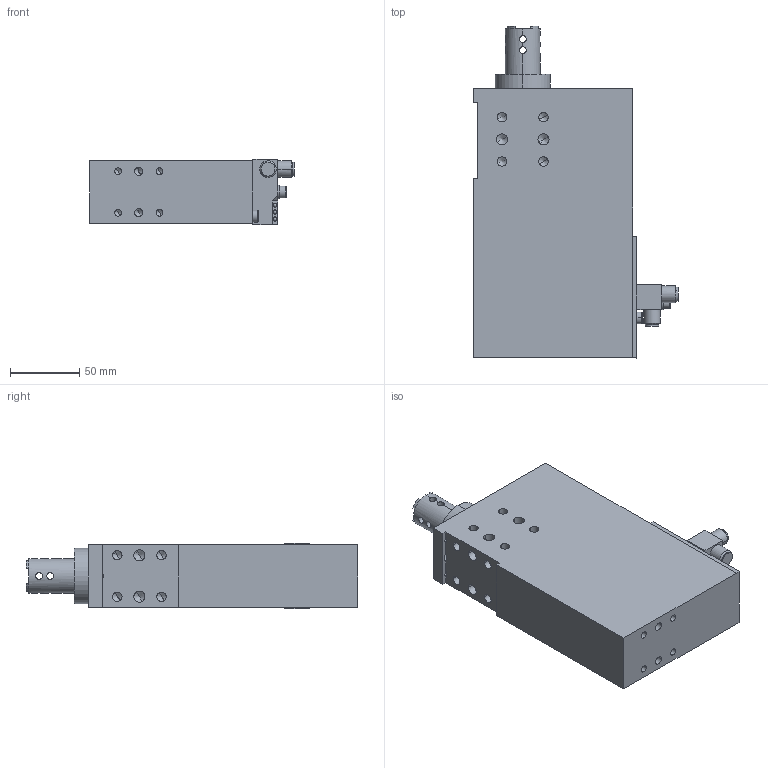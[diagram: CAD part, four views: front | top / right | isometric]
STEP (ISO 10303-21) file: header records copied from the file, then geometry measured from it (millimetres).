
FILE_DESCRIPTION(('CATIA V5 STEP Exchange'),'2;1');
FILE_NAME('G:\Konstruktion\Modelle\UPLOAD\SZV_1_40_B_T12_TUENKERS.stp','2014-09-18T06:55:34+00:00',('none'),('none'),'CATIA Version 5 Release 19 SP 9 (IN-10)','CATIA V5 STEP AP203','none');
FILE_SCHEMA(('CONFIG_CONTROL_DESIGN'));
Length unit declared in the file: millimetre
Products named in the file (1): SZV_1_40_B_TUENKERS
Bounding box: 148 x 240 x 47 mm (x, y, z)
Volume: 1044030.1 mm3; surface area: 89672.8 mm2
Topology: 1 solids, 1 shells, 237 faces, 711 edges, 432 vertices
Faces by surface type: cylinder 106, cone 68, plane 47, sphere 12, torus 4
Entity records: 7580 total; most frequent: CARTESIAN_POINT 2086, ORIENTED_EDGE 1270, DIRECTION 827, EDGE_CURVE 635, VERTEX_POINT 432, AXIS2_PLACEMENT_3D 422, EDGE_LOOP 291, CIRCLE 289
